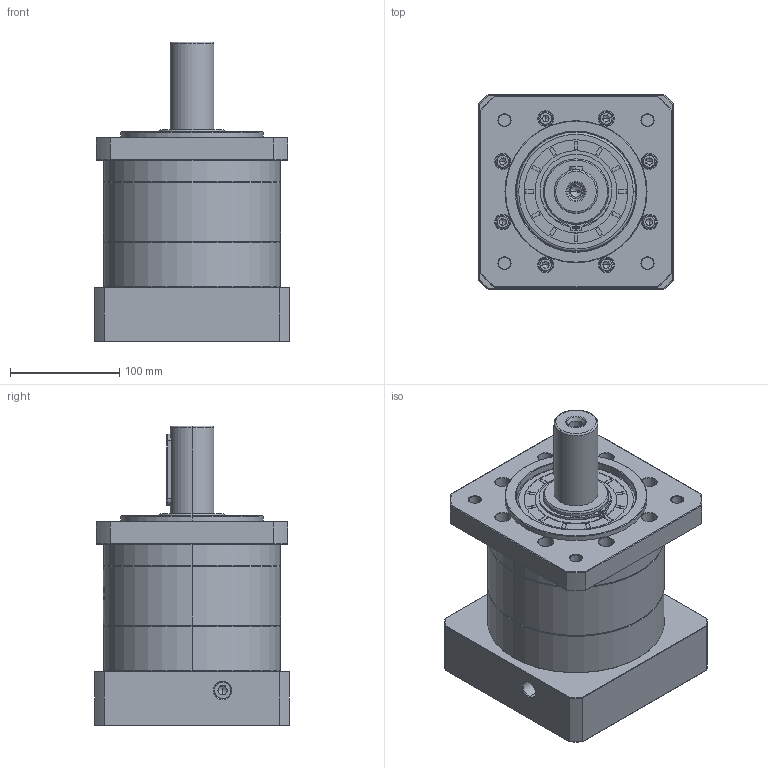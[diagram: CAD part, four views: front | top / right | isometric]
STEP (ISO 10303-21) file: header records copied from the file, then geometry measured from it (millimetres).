
FILE_DESCRIPTION (( 'STEP AP214' ), '1' );
FILE_NAME ('ZF160-D40-L1-35-150-200-M12.step', '2023-03-21T04:28:43', ( '' ), ( '' ), 'SwSTEP 2.0', 'SolidWorks 2016', '' );
FILE_SCHEMA (( 'AUTOMOTIVE_DESIGN' ));
Length unit declared in the file: millimetre
Products named in the file (1): ZF160-D40-L1-35-150-200-M12
Bounding box: 178 x 178 x 274.2 mm (x, y, z)
Volume: 4251715.7 mm3; surface area: 341676.1 mm2
Topology: 6 solids, 6 shells, 1618 faces, 4204 edges, 2690 vertices
Faces by surface type: plane 644, cylinder 408, cone 326, bspline 218, torus 22
Entity records: 93168 total; most frequent: CARTESIAN_POINT 37909, ORIENTED_EDGE 8348, DIRECTION 7099, EDGE_CURVE 4174, VERTEX_POINT 2690, AXIS2_PLACEMENT_3D 2462, LINE 2175, VECTOR 2175
